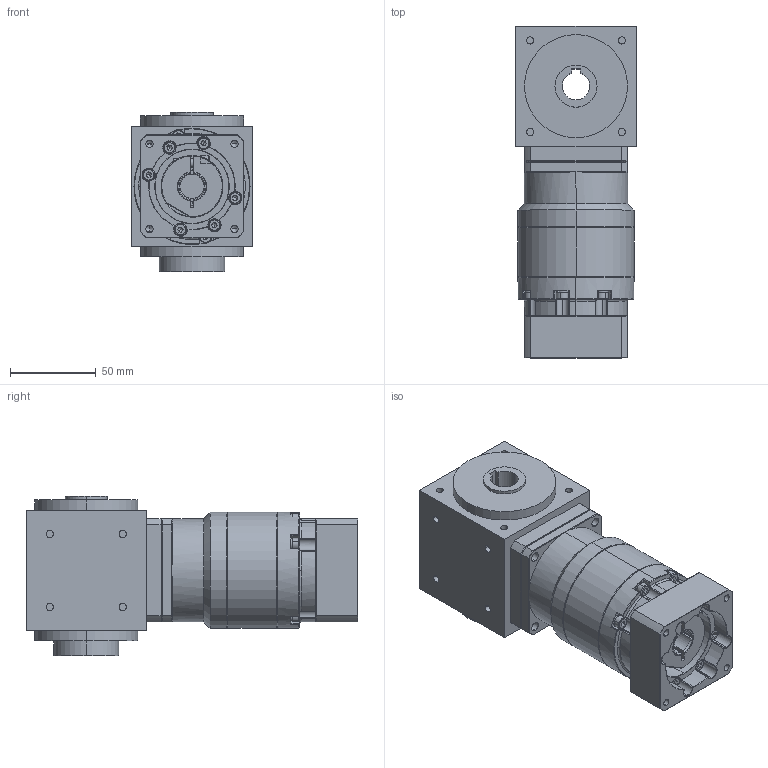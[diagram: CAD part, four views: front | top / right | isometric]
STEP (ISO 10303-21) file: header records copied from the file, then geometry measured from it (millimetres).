
FILE_DESCRIPTION (( 'STEP AP203' ), '1' );
FILE_NAME ('AAW070AS-L2-RFK 14-50-70-M5.STEP', '2024-12-23T08:42:30', ( '' ), ( '' ), 'SwSTEP 2.0', 'SolidWorks 2021', '' );
FILE_SCHEMA (( 'CONFIG_CONTROL_DESIGN' ));
Length unit declared in the file: millimetre
Products named in the file (3): VRB-060-L2-S2-P1 14-50-70-M5; AAW070AS-L1-RFK 14-50-70-M5; AAW070AS-L2-RFK 14-50-70-M5
Assembly tree (2 placements, depth 2):
  AAW070AS-L2-RFK 14-50-70-M5
    AAW070AS-L1-RFK 14-50-70-M5
    VRB-060-L2-S2-P1 14-50-70-M5
Bounding box: 70 x 193 x 92.5 mm (x, y, z)
Volume: 660359.9 mm3; surface area: 118373.9 mm2
Topology: 33 solids, 33 shells, 1068 faces, 2573 edges, 1601 vertices
Faces by surface type: plane 423, cylinder 387, cone 196, torus 50, bspline 12
Entity records: 31942 total; most frequent: CARTESIAN_POINT 6480, DIRECTION 5594, ORIENTED_EDGE 5050, EDGE_CURVE 2525, AXIS2_PLACEMENT_3D 2236, VERTEX_POINT 1601, EDGE_LOOP 1192, CIRCLE 1175
